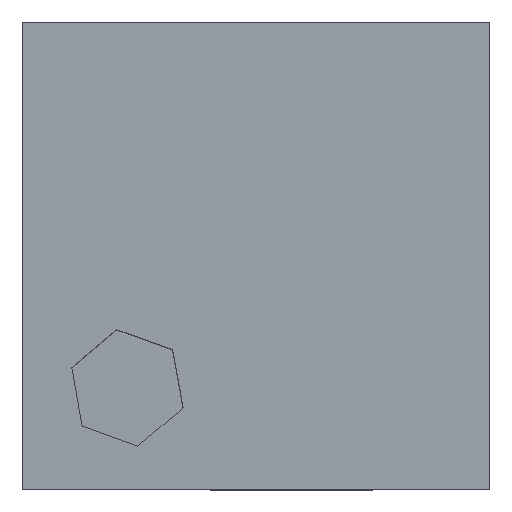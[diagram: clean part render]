
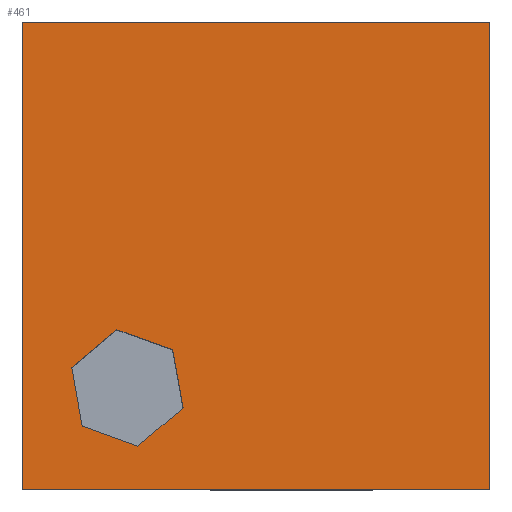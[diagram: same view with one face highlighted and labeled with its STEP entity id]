
A CAD part, top view. The second image highlights one B-rep face of the part: STEP entity #461.
In plain terms, the highlighted planar face has unit normal (0, 0, 1).
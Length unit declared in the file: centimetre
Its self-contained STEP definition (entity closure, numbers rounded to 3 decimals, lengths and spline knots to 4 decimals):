
#2 = VECTOR ( 'NONE', #380, 100. ) ;
#8 = EDGE_CURVE ( 'NONE', #323, #150, #245, .T. ) ;
#9 = FACE_BOUND ( 'NONE', #349, .T. ) ;
#10 = CARTESIAN_POINT ( 'NONE',  ( 1000., 1000., 1000. ) ) ;
#12 = VERTEX_POINT ( 'NONE', #132 ) ;
#17 = CARTESIAN_POINT ( 'NONE',  ( 247.2149, 92.1887, 1000. ) ) ;
#42 = ORIENTED_EDGE ( 'NONE', *, *, #501, .F. ) ;
#59 = EDGE_CURVE ( 'NONE', #251, #190, #124, .T. ) ;
#62 = CARTESIAN_POINT ( 'NONE',  ( 105.6045, 259.6951, 1000. ) ) ;
#66 = VERTEX_POINT ( 'NONE', #437 ) ;
#78 = CARTESIAN_POINT ( 'NONE',  ( 0., 0., 1000. ) ) ;
#92 = LINE ( 'NONE', #62, #440 ) ;
#100 = EDGE_CURVE ( 'NONE', #150, #66, #178, .T. ) ;
#102 = PLANE ( 'NONE',  #354 ) ;
#107 = VECTOR ( 'NONE', #177, 100. ) ;
#123 = CARTESIAN_POINT ( 'NONE',  ( 128.0548, 135.0625, 1000. ) ) ;
#124 = LINE ( 'NONE', #478, #220 ) ;
#128 = ORIENTED_EDGE ( 'NONE', *, *, #59, .F. ) ;
#132 = CARTESIAN_POINT ( 'NONE',  ( 343.9248, 173.9475, 1000. ) ) ;
#134 = FACE_OUTER_BOUND ( 'NONE', #285, .T. ) ;
#150 = VERTEX_POINT ( 'NONE', #263 ) ;
#172 = ORIENTED_EDGE ( 'NONE', *, *, #400, .T. ) ;
#174 = DIRECTION ( 'NONE',  ( 0., 0., 1. ) ) ;
#177 = DIRECTION ( 'NONE',  ( 0., -1., 0. ) ) ;
#178 = LINE ( 'NONE', #306, #243 ) ;
#182 = CARTESIAN_POINT ( 'NONE',  ( 0., 1000., 1000. ) ) ;
#190 = VERTEX_POINT ( 'NONE', #384 ) ;
#202 = ORIENTED_EDGE ( 'NONE', *, *, #411, .F. ) ;
#204 = ORIENTED_EDGE ( 'NONE', *, *, #346, .F. ) ;
#214 = VERTEX_POINT ( 'NONE', #284 ) ;
#218 = LINE ( 'NONE', #339, #2 ) ;
#220 = VECTOR ( 'NONE', #282, 100. ) ;
#233 = VERTEX_POINT ( 'NONE', #123 ) ;
#243 = VECTOR ( 'NONE', #268, 100. ) ;
#245 = LINE ( 'NONE', #10, #270 ) ;
#251 = VERTEX_POINT ( 'NONE', #365 ) ;
#256 = CARTESIAN_POINT ( 'NONE',  ( 0., 0., 1000. ) ) ;
#261 = CARTESIAN_POINT ( 'NONE',  ( 0., 0., 1000. ) ) ;
#263 = CARTESIAN_POINT ( 'NONE',  ( 1000., 1000., 1000. ) ) ;
#268 = DIRECTION ( 'NONE',  ( -1., 0., 0. ) ) ;
#270 = VECTOR ( 'NONE', #444, 100. ) ;
#282 = DIRECTION ( 'NONE',  ( -0.764, -0.646, 0. ) ) ;
#283 = DIRECTION ( 'NONE',  ( 0.941, -0.339, 0. ) ) ;
#284 = CARTESIAN_POINT ( 'NONE',  ( 321.4745, 298.5801, 1000. ) ) ;
#285 = EDGE_LOOP ( 'NONE', ( #172, #412, #398, #390 ) ) ;
#286 = LINE ( 'NONE', #355, #469 ) ;
#291 = VERTEX_POINT ( 'NONE', #397 ) ;
#305 = VECTOR ( 'NONE', #452, 100. ) ;
#306 = CARTESIAN_POINT ( 'NONE',  ( 0., 1000., 1000. ) ) ;
#310 = ORIENTED_EDGE ( 'NONE', *, *, #434, .F. ) ;
#316 = VECTOR ( 'NONE', #283, 100. ) ;
#323 = VERTEX_POINT ( 'NONE', #515 ) ;
#334 = CARTESIAN_POINT ( 'NONE',  ( 128.0548, 135.0625, 1000. ) ) ;
#336 = DIRECTION ( 'NONE',  ( 1., 0., 0. ) ) ;
#339 = CARTESIAN_POINT ( 'NONE',  ( 321.4745, 298.5801, 1000. ) ) ;
#342 = ORIENTED_EDGE ( 'NONE', *, *, #410, .F. ) ;
#346 = EDGE_CURVE ( 'NONE', #12, #214, #286, .T. ) ;
#349 = EDGE_LOOP ( 'NONE', ( #204, #202, #42, #310, #128, #342 ) ) ;
#354 = AXIS2_PLACEMENT_3D ( 'NONE', #256, #174, #336 ) ;
#355 = CARTESIAN_POINT ( 'NONE',  ( 343.9248, 173.9475, 1000. ) ) ;
#363 = VERTEX_POINT ( 'NONE', #78 ) ;
#365 = CARTESIAN_POINT ( 'NONE',  ( 202.3144, 341.4539, 1000. ) ) ;
#380 = DIRECTION ( 'NONE',  ( -0.941, 0.339, 0. ) ) ;
#384 = CARTESIAN_POINT ( 'NONE',  ( 105.6045, 259.6951, 1000. ) ) ;
#390 = ORIENTED_EDGE ( 'NONE', *, *, #100, .T. ) ;
#393 = LINE ( 'NONE', #334, #316 ) ;
#397 = CARTESIAN_POINT ( 'NONE',  ( 247.2149, 92.1887, 1000. ) ) ;
#398 = ORIENTED_EDGE ( 'NONE', *, *, #8, .T. ) ;
#400 = EDGE_CURVE ( 'NONE', #66, #363, #458, .T. ) ;
#408 = DIRECTION ( 'NONE',  ( 0.177, -0.984, 0. ) ) ;
#410 = EDGE_CURVE ( 'NONE', #214, #251, #218, .T. ) ;
#411 = EDGE_CURVE ( 'NONE', #291, #12, #449, .T. ) ;
#412 = ORIENTED_EDGE ( 'NONE', *, *, #431, .T. ) ;
#418 = DIRECTION ( 'NONE',  ( 1., 0., 0. ) ) ;
#428 = VECTOR ( 'NONE', #418, 100. ) ;
#431 = EDGE_CURVE ( 'NONE', #363, #323, #489, .T. ) ;
#434 = EDGE_CURVE ( 'NONE', #190, #233, #92, .T. ) ;
#437 = CARTESIAN_POINT ( 'NONE',  ( 0., 1000., 1000. ) ) ;
#440 = VECTOR ( 'NONE', #408, 100. ) ;
#444 = DIRECTION ( 'NONE',  ( 0., 1., 0. ) ) ;
#449 = LINE ( 'NONE', #17, #305 ) ;
#452 = DIRECTION ( 'NONE',  ( 0.764, 0.646, 0. ) ) ;
#458 = LINE ( 'NONE', #182, #107 ) ;
#461 = ADVANCED_FACE ( 'NONE', ( #9, #134 ), #102, .T. ) ;
#469 = VECTOR ( 'NONE', #506, 100. ) ;
#478 = CARTESIAN_POINT ( 'NONE',  ( 202.3144, 341.4539, 1000. ) ) ;
#489 = LINE ( 'NONE', #261, #428 ) ;
#501 = EDGE_CURVE ( 'NONE', #233, #291, #393, .T. ) ;
#506 = DIRECTION ( 'NONE',  ( -0.177, 0.984, 0. ) ) ;
#515 = CARTESIAN_POINT ( 'NONE',  ( 1000., 0., 1000. ) ) ;
